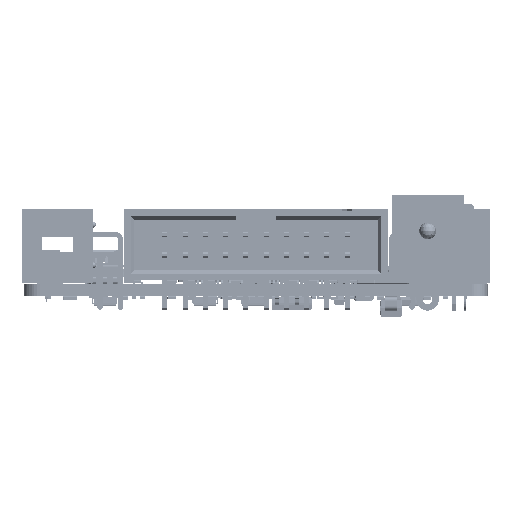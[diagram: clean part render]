
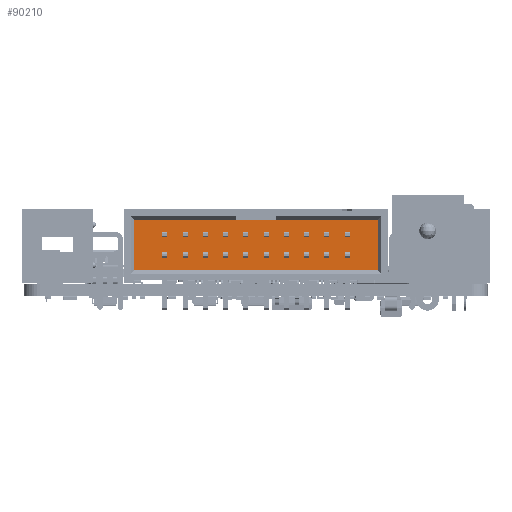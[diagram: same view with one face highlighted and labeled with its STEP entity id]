
A CAD part, left-side view. The second image highlights one B-rep face of the part: STEP entity #90210.
In plain terms, the highlighted planar face has unit normal (-1, 0, 0) as drawn and (0, 1, 0) by its records, which use the part's own axes.
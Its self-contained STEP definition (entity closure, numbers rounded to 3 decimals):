
#2689 = VECTOR ( 'NONE', #14373, 1000. ) ;
#5430 = CARTESIAN_POINT ( 'NONE',  ( -15.24, 2.54, -3.175 ) ) ;
#5604 = CARTESIAN_POINT ( 'NONE',  ( 15.24, 2.54, -3.175 ) ) ;
#7916 = DIRECTION ( 'NONE',  ( 0., 0., -1. ) ) ;
#9763 = ORIENTED_EDGE ( 'NONE', *, *, #131867, .T. ) ;
#9872 = CARTESIAN_POINT ( 'NONE',  ( -15.24, 2.54, 3.175 ) ) ;
#10235 = EDGE_CURVE ( 'NONE', #48405, #92982, #20081, .T. ) ;
#14082 = DIRECTION ( 'NONE',  ( 0., 0., 1. ) ) ;
#14373 = DIRECTION ( 'NONE',  ( -1., 0., 0. ) ) ;
#19038 = LINE ( 'NONE', #129640, #134348 ) ;
#20081 = LINE ( 'NONE', #97646, #100082 ) ;
#20961 = DIRECTION ( 'NONE',  ( 0., 0., 1. ) ) ;
#21338 = VECTOR ( 'NONE', #58322, 1000. ) ;
#25002 = VECTOR ( 'NONE', #122563, 1000. ) ;
#25166 = VECTOR ( 'NONE', #20961, 1000. ) ;
#29736 = VERTEX_POINT ( 'NONE', #120933 ) ;
#30554 = VECTOR ( 'NONE', #133588, 1000. ) ;
#30605 = CARTESIAN_POINT ( 'NONE',  ( 15.24, 2.54, 3.175 ) ) ;
#38648 = CARTESIAN_POINT ( 'NONE',  ( 2.54, 2.54, 3.175 ) ) ;
#38686 = ORIENTED_EDGE ( 'NONE', *, *, #87159, .T. ) ;
#38819 = CARTESIAN_POINT ( 'NONE',  ( -15.24, 2.54, 3.175 ) ) ;
#39867 = VECTOR ( 'NONE', #7916, 1000. ) ;
#41595 = CARTESIAN_POINT ( 'NONE',  ( -15.24, 2.54, 1.651 ) ) ;
#43026 = ORIENTED_EDGE ( 'NONE', *, *, #94318, .T. ) ;
#43262 = VERTEX_POINT ( 'NONE', #5430 ) ;
#44057 = LINE ( 'NONE', #120956, #138033 ) ;
#47037 = ORIENTED_EDGE ( 'NONE', *, *, #55115, .T. ) ;
#48405 = VERTEX_POINT ( 'NONE', #48596 ) ;
#48596 = CARTESIAN_POINT ( 'NONE',  ( -2.54, 2.54, 3.175 ) ) ;
#49775 = LINE ( 'NONE', #38819, #74957 ) ;
#50606 = ORIENTED_EDGE ( 'NONE', *, *, #128916, .T. ) ;
#55115 = EDGE_CURVE ( 'NONE', #138959, #70729, #108245, .T. ) ;
#56224 = AXIS2_PLACEMENT_3D ( 'NONE', #57251, #58719, #14082 ) ;
#57251 = CARTESIAN_POINT ( 'NONE',  ( 0., 2.54, 0. ) ) ;
#57311 = CARTESIAN_POINT ( 'NONE',  ( 15.24, 2.54, 3.175 ) ) ;
#58274 = CARTESIAN_POINT ( 'NONE',  ( 15.24, 2.54, -3.175 ) ) ;
#58322 = DIRECTION ( 'NONE',  ( 0., 0., -1. ) ) ;
#58719 = DIRECTION ( 'NONE',  ( 0., 1., 0. ) ) ;
#63671 = DIRECTION ( 'NONE',  ( 0., 0., 1. ) ) ;
#66362 = CARTESIAN_POINT ( 'NONE',  ( -15.24, 2.54, -1.651 ) ) ;
#70729 = VERTEX_POINT ( 'NONE', #84204 ) ;
#74957 = VECTOR ( 'NONE', #128162, 1000. ) ;
#76013 = VERTEX_POINT ( 'NONE', #139321 ) ;
#77124 = ORIENTED_EDGE ( 'NONE', *, *, #129109, .T. ) ;
#77870 = LINE ( 'NONE', #9872, #30554 ) ;
#80303 = CARTESIAN_POINT ( 'NONE',  ( 15.24, 2.54, 3.175 ) ) ;
#84204 = CARTESIAN_POINT ( 'NONE',  ( 15.24, 2.54, 1.651 ) ) ;
#84602 = VERTEX_POINT ( 'NONE', #66362 ) ;
#85022 = ORIENTED_EDGE ( 'NONE', *, *, #10235, .T. ) ;
#87159 = EDGE_CURVE ( 'NONE', #84602, #88192, #121239, .T. ) ;
#88192 = VERTEX_POINT ( 'NONE', #41595 ) ;
#90210 = ADVANCED_FACE ( 'NONE', ( #90236 ), #123202, .T. ) ;
#90236 = FACE_OUTER_BOUND ( 'NONE', #128113, .T. ) ;
#92982 = VERTEX_POINT ( 'NONE', #38648 ) ;
#94318 = EDGE_CURVE ( 'NONE', #92982, #138959, #77870, .T. ) ;
#97646 = CARTESIAN_POINT ( 'NONE',  ( -15.24, 2.54, 3.175 ) ) ;
#98539 = CARTESIAN_POINT ( 'NONE',  ( -15.24, 2.54, -3.175 ) ) ;
#100082 = VECTOR ( 'NONE', #121825, 1000. ) ;
#100865 = EDGE_CURVE ( 'NONE', #70729, #29736, #135720, .T. ) ;
#100982 = ORIENTED_EDGE ( 'NONE', *, *, #143085, .T. ) ;
#103009 = EDGE_CURVE ( 'NONE', #111341, #43262, #127138, .T. ) ;
#108245 = LINE ( 'NONE', #30605, #39867 ) ;
#108658 = ORIENTED_EDGE ( 'NONE', *, *, #100865, .T. ) ;
#111341 = VERTEX_POINT ( 'NONE', #5604 ) ;
#113230 = CARTESIAN_POINT ( 'NONE',  ( 15.24, 2.54, 3.175 ) ) ;
#115504 = LINE ( 'NONE', #80303, #21338 ) ;
#120933 = CARTESIAN_POINT ( 'NONE',  ( 15.24, 2.54, -1.651 ) ) ;
#120956 = CARTESIAN_POINT ( 'NONE',  ( -15.24, 2.54, -3.175 ) ) ;
#121239 = LINE ( 'NONE', #98539, #25166 ) ;
#121825 = DIRECTION ( 'NONE',  ( 1., 0., 0. ) ) ;
#122220 = ORIENTED_EDGE ( 'NONE', *, *, #103009, .T. ) ;
#122563 = DIRECTION ( 'NONE',  ( 0., 0., -1. ) ) ;
#123202 = PLANE ( 'NONE',  #56224 ) ;
#127138 = LINE ( 'NONE', #58274, #2689 ) ;
#128113 = EDGE_LOOP ( 'NONE', ( #122220, #9763, #38686, #50606, #77124, #85022, #43026, #47037, #108658, #100982 ) ) ;
#128162 = DIRECTION ( 'NONE',  ( 1., 0., 0. ) ) ;
#128916 = EDGE_CURVE ( 'NONE', #88192, #76013, #44057, .T. ) ;
#129109 = EDGE_CURVE ( 'NONE', #76013, #48405, #49775, .T. ) ;
#129640 = CARTESIAN_POINT ( 'NONE',  ( -15.24, 2.54, -3.175 ) ) ;
#131867 = EDGE_CURVE ( 'NONE', #43262, #84602, #19038, .T. ) ;
#133588 = DIRECTION ( 'NONE',  ( 1., 0., 0. ) ) ;
#134076 = DIRECTION ( 'NONE',  ( 0., 0., 1. ) ) ;
#134348 = VECTOR ( 'NONE', #63671, 1000. ) ;
#135720 = LINE ( 'NONE', #57311, #25002 ) ;
#138033 = VECTOR ( 'NONE', #134076, 1000. ) ;
#138959 = VERTEX_POINT ( 'NONE', #113230 ) ;
#139321 = CARTESIAN_POINT ( 'NONE',  ( -15.24, 2.54, 3.175 ) ) ;
#143085 = EDGE_CURVE ( 'NONE', #29736, #111341, #115504, .T. ) ;
